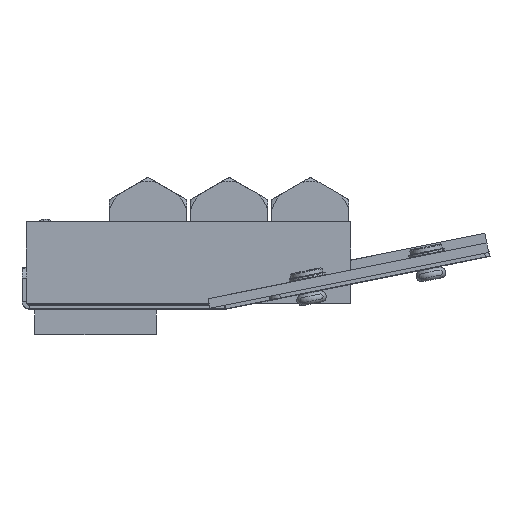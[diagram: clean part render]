
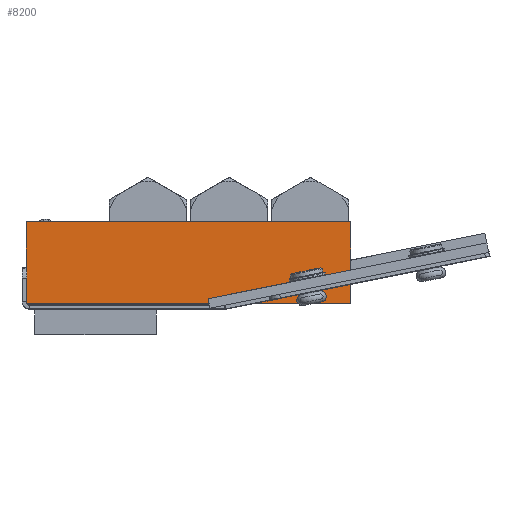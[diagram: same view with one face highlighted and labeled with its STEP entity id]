
A CAD part, left-side view. The second image highlights one B-rep face of the part: STEP entity #8200.
In plain terms, the highlighted planar face has unit normal (-1, 0, 0) as drawn and (1, 0, 0) by its records, which use the part's own axes.
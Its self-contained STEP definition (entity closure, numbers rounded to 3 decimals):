
#8069=DIRECTION('',(0.,-1.,0.));
#8070=VECTOR('',#8069,20.);
#8071=CARTESIAN_POINT('',(100.,20.,0.));
#8072=LINE('',#8071,#8070);
#8089=DIRECTION('',(0.,0.,1.));
#8090=VECTOR('',#8089,80.);
#8091=CARTESIAN_POINT('',(100.,0.,-80.));
#8092=LINE('',#8091,#8090);
#8093=DIRECTION('',(0.,-1.,0.));
#8094=VECTOR('',#8093,20.);
#8095=CARTESIAN_POINT('',(100.,20.,-80.));
#8096=LINE('',#8095,#8094);
#8109=DIRECTION('',(0.,0.,1.));
#8110=VECTOR('',#8109,80.);
#8111=CARTESIAN_POINT('',(100.,20.,-80.));
#8112=LINE('',#8111,#8110);
#8113=CARTESIAN_POINT('',(100.,0.,0.));
#8115=VERTEX_POINT('',#8113);
#8117=CARTESIAN_POINT('',(100.,0.,-80.));
#8118=VERTEX_POINT('',#8117);
#8123=CARTESIAN_POINT('',(100.,20.,0.));
#8124=VERTEX_POINT('',#8123);
#8127=CARTESIAN_POINT('',(100.,20.,-80.));
#8128=VERTEX_POINT('',#8127);
#8188=CARTESIAN_POINT('',(100.,0.,0.));
#8189=DIRECTION('',(1.,0.,0.));
#8190=DIRECTION('',(0.,0.,-1.));
#8191=AXIS2_PLACEMENT_3D('',#8188,#8189,#8190);
#8192=PLANE('',#8191);
#8193=ORIENTED_EDGE('',*,*,#8136,.T.);
#8194=ORIENTED_EDGE('',*,*,#8155,.F.);
#8196=ORIENTED_EDGE('',*,*,#8195,.F.);
#8197=ORIENTED_EDGE('',*,*,#8180,.T.);
#8198=EDGE_LOOP('',(#8193,#8194,#8196,#8197));
#8199=FACE_OUTER_BOUND('',#8198,.F.);
#8200=ADVANCED_FACE('',(#8199),#8192,.T.);
#8136=EDGE_CURVE('',#8118,#8115,#8092,.T.);
#8155=EDGE_CURVE('',#8124,#8115,#8072,.T.);
#8180=EDGE_CURVE('',#8128,#8118,#8096,.T.);
#8195=EDGE_CURVE('',#8128,#8124,#8112,.T.);
